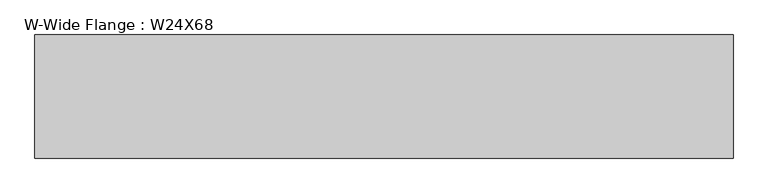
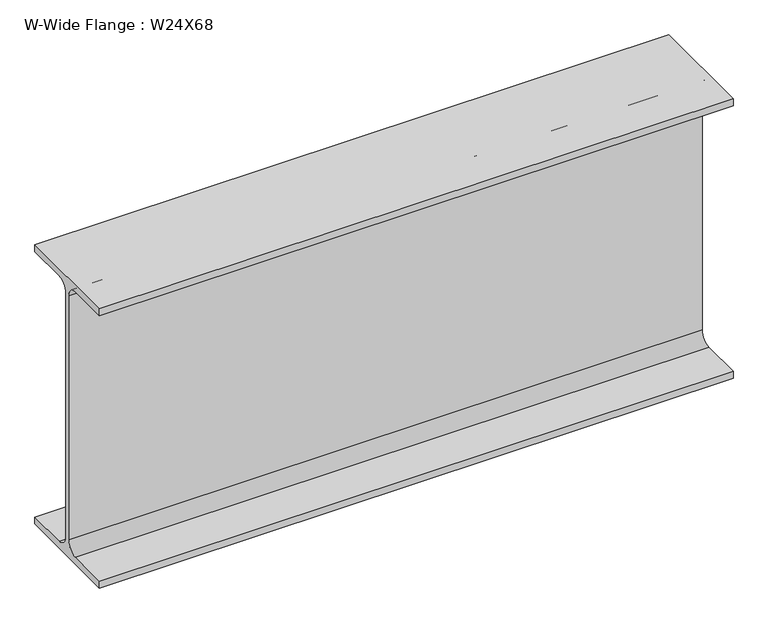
"""IFC4 building model written with IfcOpenShell, lengths in millimetres: beam geometry, W-Wide Flange : W24X68."""

from ifc_helpers import new_model, si_unit, point, frame, frame_2d, origin, place, context, project, spatial, polyline, circle_curve, trimmed, segment, composite_curve, outline, extrude, source, transform, mapped, element, save


def w_wide_flange_w24x68_1052d64c(model_context):
    return source(origin(), model_context, "Body", "SweptSolid", [
        extrude(outline(composite_curve([segment(polyline([(113.919, -286.131), (113.919, -300.99), (-113.919, -300.99), (-113.919, -286.131), (-28.5115, -286.131)]), True, "CONTINUOUS"), segment(trimmed(circle_curve(frame_2d((-28.5115, -262.89)), 23.241), [point((-28.5115, -286.131))], [point((-5.2705, -262.89))], True, "CARTESIAN"), True, "CONTINUOUS"), segment(polyline([(-5.2705, -262.89), (-5.2705, 262.89)]), True, "CONTINUOUS"), segment(trimmed(circle_curve(frame_2d((-28.5115, 262.89)), 23.241), [point((-5.2705, 262.89))], [point((-28.5115, 286.131))], True, "CARTESIAN"), True, "CONTINUOUS"), segment(polyline([(-28.5115, 286.131), (-113.919, 286.131), (-113.919, 300.99), (113.919, 300.99), (113.919, 286.131), (28.5115, 286.131)]), True, "CONTINUOUS"), segment(trimmed(circle_curve(frame_2d((28.5115, 262.89)), 23.241), [point((28.5115, 286.131))], [point((5.2705, 262.89))], True, "CARTESIAN"), True, "CONTINUOUS"), segment(polyline([(5.2705, 262.89), (5.2705, -262.89)]), True, "CONTINUOUS"), segment(trimmed(circle_curve(frame_2d((28.5115, -262.89)), 23.241), [point((5.2705, -262.89))], [point((28.5115, -286.131))], True, "CARTESIAN"), True, "CONTINUOUS"), segment(polyline([(28.5115, -286.131), (113.919, -286.131)]), True, "CONTINUOUS")], self_intersect=False)), frame((-469.9, 0.0, 0.0), z_axis=(1.0, 0.0, 0.0), x_axis=(0.0, 1.0, 0.0)), (0.0, 0.0, 1.0), 1292.1635439),
    ])


if __name__ == "__main__":
    model = new_model("IFC4")
    model_context = context("Model", 3, world=origin())
    ifc_project = project(units=[si_unit("LENGTHUNIT", "METRE", prefix="MILLI")], contexts=[model_context])
    site = spatial("IfcSite", under=ifc_project)
    building = spatial("IfcBuilding", under=site)
    placement = place(None, origin())
    w_wide_flange_w24x68_shape = w_wide_flange_w24x68_1052d64c(model_context)
    element("IfcBeam", 1, ObjectType="W-Wide Flange : W24X68", at=placement, inside=building, context=model_context, shape_type="MappedRepresentation", body=[
        mapped(w_wide_flange_w24x68_shape, transform((0.0, 0.0, 0.0), x_axis=(1.0, 0.0, 0.0), y_axis=(0.0, 1.0, 0.0), z_axis=(0.0, 0.0, 1.0))),
    ])
    save(model, "model.ifc")
